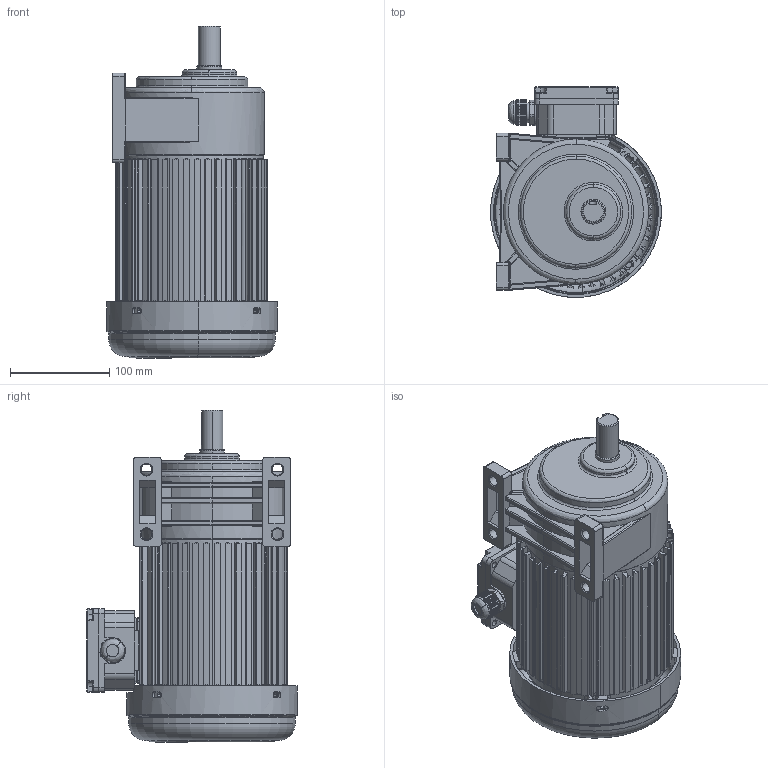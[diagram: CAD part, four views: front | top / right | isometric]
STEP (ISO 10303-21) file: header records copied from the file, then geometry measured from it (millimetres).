
FILE_DESCRIPTION (( 'STEP AP203' ), '1' );
FILE_NAME ('750W饜2#拏宒.STEP', '2020-04-15T03:02:48', ( 'china' ), ( 'china' ), 'SwSTEP 2.0', 'SolidWorks 2019', '' );
FILE_SCHEMA (( 'CONFIG_CONTROL_DESIGN' ));
Length unit declared in the file: millimetre
Products named in the file (3): 750W萇儂; 750W饜2#拏宒眊极; 750W饜2#拏宒
Assembly tree (2 placements, depth 2):
  750W饜2#拏宒
    750W萇儂
    750W饜2#拏宒眊极
Bounding box: 171.63 x 211.71 x 334.13 mm (x, y, z)
Volume: 1411572.4 mm3; surface area: 558653.6 mm2
Topology: 1 solids, 9 shells, 2095 faces, 5681 edges, 3708 vertices
Faces by surface type: cylinder 1084, plane 732, bspline 237, torus 30, sphere 8, cone 4
Entity records: 80396 total; most frequent: CARTESIAN_POINT 28426, ORIENTED_EDGE 11326, DIRECTION 9992, EDGE_CURVE 5665, AXIS2_PLACEMENT_3D 3769, VERTEX_POINT 3708, EDGE_LOOP 2595, VECTOR 2454
